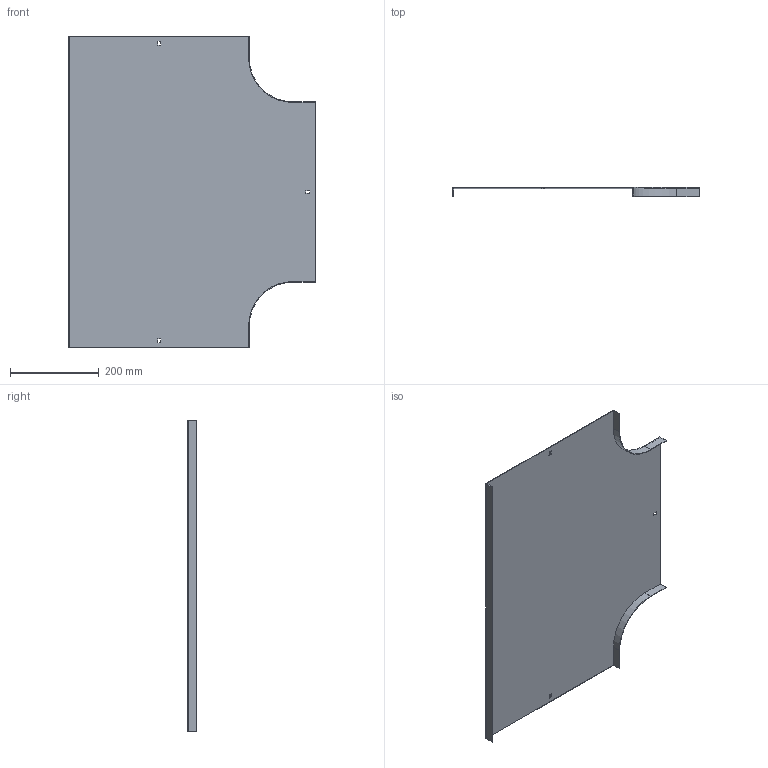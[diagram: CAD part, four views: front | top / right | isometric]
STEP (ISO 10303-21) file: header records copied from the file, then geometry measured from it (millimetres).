
FILE_DESCRIPTION (( 'STEP AP214' ), '1' );
FILE_NAME ('15N1R400.step', '2025-02-21T09:52:12', ( '' ), ( '' ), 'SwSTEP 2.0', 'SolidWorks 2023', '' );
FILE_SCHEMA (( 'AUTOMOTIVE_DESIGN' ));
Length unit declared in the file: millimetre
Products named in the file (1): 15N1R400
Bounding box: 555.5 x 20 x 704 mm (x, y, z)
Volume: 560172.9 mm3; surface area: 750854.9 mm2
Topology: 1 solids, 1 shells, 34 faces, 96 edges, 64 vertices
Faces by surface type: plane 30, cylinder 4
Entity records: 1123 total; most frequent: CARTESIAN_POINT 195, ORIENTED_EDGE 192, DIRECTION 174, EDGE_CURVE 96, LINE 88, VECTOR 88, VERTEX_POINT 64, AXIS2_PLACEMENT_3D 43
